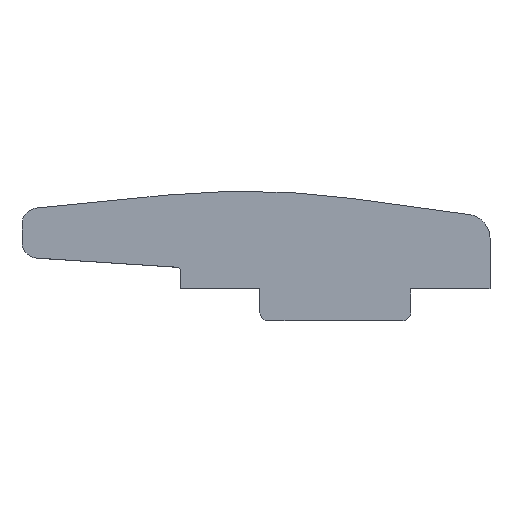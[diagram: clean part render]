
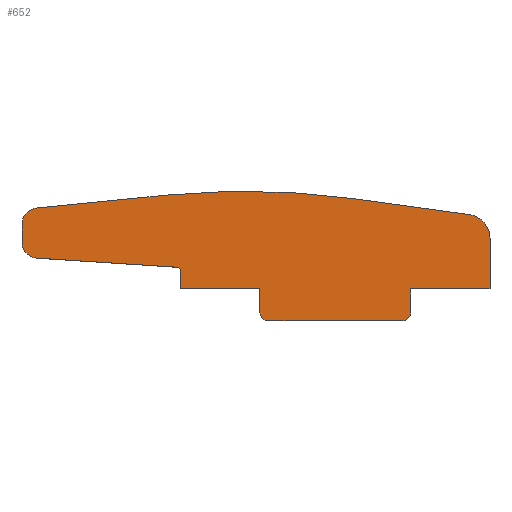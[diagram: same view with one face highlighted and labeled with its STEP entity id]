
A CAD part, top view. The second image highlights one B-rep face of the part: STEP entity #652.
In plain terms, the highlighted planar face has unit normal (0, 0, 1).
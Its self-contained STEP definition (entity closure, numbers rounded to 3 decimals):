
#164=CARTESIAN_POINT('',(-10.5,2.231,2.5));
#165=DIRECTION('',(0.,0.,-1.));
#166=DIRECTION('',(0.065,0.998,0.));
#167=AXIS2_PLACEMENT_3D('',#164,#165,#166);
#185=CARTESIAN_POINT('',(-28.,8.19,2.5));
#186=DIRECTION('',(0.,0.,1.));
#187=DIRECTION('',(-0.1,0.995,0.));
#188=AXIS2_PLACEMENT_3D('',#185,#186,#187);
#190=DIRECTION('',(-0.995,-0.1,0.));
#191=VECTOR('',#190,16.447);
#192=CARTESIAN_POINT('',(-11.833,11.817,2.5));
#193=LINE('',#192,#191);
#194=CARTESIAN_POINT('',(-1.883,-87.687,2.5));
#195=DIRECTION('',(0.,0.,1.));
#196=DIRECTION('',(0.137,0.991,0.));
#197=AXIS2_PLACEMENT_3D('',#194,#195,#196);
#199=DIRECTION('',(-0.991,0.137,0.));
#200=VECTOR('',#199,14.768);
#201=CARTESIAN_POINT('',(26.41,9.357,2.5));
#202=LINE('',#201,#200);
#203=CARTESIAN_POINT('',(26.,6.385,2.5));
#204=DIRECTION('',(0.,0.,1.));
#205=DIRECTION('',(1.,0.,0.));
#206=AXIS2_PLACEMENT_3D('',#203,#204,#205);
#208=DIRECTION('',(0.,1.,0.));
#209=VECTOR('',#208,6.385);
#210=CARTESIAN_POINT('',(29.,0.,2.5));
#211=LINE('',#210,#209);
#212=DIRECTION('',(1.,0.,0.));
#213=VECTOR('',#212,10.);
#214=CARTESIAN_POINT('',(19.,0.,2.5));
#215=LINE('',#214,#213);
#216=DIRECTION('',(0.,1.,0.));
#217=VECTOR('',#216,3.);
#218=CARTESIAN_POINT('',(19.,-3.,2.5));
#219=LINE('',#218,#217);
#220=CARTESIAN_POINT('',(18.,-3.,2.5));
#221=DIRECTION('',(0.,0.,1.));
#222=DIRECTION('',(0.,-1.,0.));
#223=AXIS2_PLACEMENT_3D('',#220,#221,#222);
#225=DIRECTION('',(1.,0.,0.));
#226=VECTOR('',#225,17.);
#227=CARTESIAN_POINT('',(1.,-4.,2.5));
#228=LINE('',#227,#226);
#229=CARTESIAN_POINT('',(1.,-3.,2.5));
#230=DIRECTION('',(0.,0.,1.));
#231=DIRECTION('',(-1.,0.,0.));
#232=AXIS2_PLACEMENT_3D('',#229,#230,#231);
#234=DIRECTION('',(0.,-1.,0.));
#235=VECTOR('',#234,3.);
#236=CARTESIAN_POINT('',(0.,0.,2.5));
#237=LINE('',#236,#235);
#238=DIRECTION('',(1.,0.,0.));
#239=VECTOR('',#238,10.);
#240=CARTESIAN_POINT('',(-10.,0.,2.5));
#241=LINE('',#240,#239);
#242=DIRECTION('',(0.,-1.,0.));
#243=VECTOR('',#242,2.231);
#244=CARTESIAN_POINT('',(-10.,2.231,2.5));
#245=LINE('',#244,#243);
#246=DIRECTION('',(0.998,-0.065,0.));
#247=VECTOR('',#246,17.699);
#248=CARTESIAN_POINT('',(-28.13,3.878,2.5));
#249=LINE('',#248,#247);
#250=CARTESIAN_POINT('',(-28.,5.874,2.5));
#251=DIRECTION('',(0.,0.,1.));
#252=DIRECTION('',(-1.,0.,0.));
#253=AXIS2_PLACEMENT_3D('',#250,#251,#252);
#255=DIRECTION('',(0.,-1.,0.));
#256=VECTOR('',#255,2.316);
#257=CARTESIAN_POINT('',(-30.,8.19,2.5));
#258=LINE('',#257,#256);
#267=CARTESIAN_POINT('',(19.,0.,2.5));
#268=CARTESIAN_POINT('',(29.,0.,2.5));
#269=VERTEX_POINT('',#267);
#270=VERTEX_POINT('',#268);
#271=CARTESIAN_POINT('',(-10.,0.,2.5));
#272=CARTESIAN_POINT('',(0.,0.,2.5));
#273=VERTEX_POINT('',#271);
#274=VERTEX_POINT('',#272);
#276=CARTESIAN_POINT('',(-10.,2.231,2.5));
#278=VERTEX_POINT('',#276);
#280=CARTESIAN_POINT('',(-10.468,2.73,2.5));
#282=VERTEX_POINT('',#280);
#287=CARTESIAN_POINT('',(-28.199,10.18,2.5));
#288=VERTEX_POINT('',#287);
#289=CARTESIAN_POINT('',(-30.,8.19,2.5));
#290=VERTEX_POINT('',#289);
#295=CARTESIAN_POINT('',(29.,6.385,2.5));
#296=VERTEX_POINT('',#295);
#297=CARTESIAN_POINT('',(26.41,9.357,2.5));
#298=VERTEX_POINT('',#297);
#303=CARTESIAN_POINT('',(0.,-3.,2.5));
#304=VERTEX_POINT('',#303);
#305=CARTESIAN_POINT('',(1.,-4.,2.5));
#306=VERTEX_POINT('',#305);
#311=CARTESIAN_POINT('',(18.,-4.,2.5));
#312=VERTEX_POINT('',#311);
#313=CARTESIAN_POINT('',(19.,-3.,2.5));
#314=VERTEX_POINT('',#313);
#319=CARTESIAN_POINT('',(-30.,5.874,2.5));
#320=VERTEX_POINT('',#319);
#321=CARTESIAN_POINT('',(-28.13,3.878,2.5));
#322=VERTEX_POINT('',#321);
#327=CARTESIAN_POINT('',(11.781,11.375,2.5));
#328=VERTEX_POINT('',#327);
#329=CARTESIAN_POINT('',(-11.833,11.817,2.5));
#330=VERTEX_POINT('',#329);
#627=CARTESIAN_POINT('',(0.,0.,2.5));
#628=DIRECTION('',(0.,0.,1.));
#629=DIRECTION('',(1.,0.,0.));
#630=AXIS2_PLACEMENT_3D('',#627,#628,#629);
#631=PLANE('',#630);
#632=ORIENTED_EDGE('',*,*,#383,.F.);
#633=ORIENTED_EDGE('',*,*,#399,.F.);
#634=ORIENTED_EDGE('',*,*,#412,.F.);
#635=ORIENTED_EDGE('',*,*,#425,.F.);
#636=ORIENTED_EDGE('',*,*,#440,.F.);
#637=ORIENTED_EDGE('',*,*,#455,.F.);
#638=ORIENTED_EDGE('',*,*,#468,.F.);
#639=ORIENTED_EDGE('',*,*,#481,.F.);
#640=ORIENTED_EDGE('',*,*,#496,.F.);
#641=ORIENTED_EDGE('',*,*,#509,.F.);
#642=ORIENTED_EDGE('',*,*,#524,.F.);
#643=ORIENTED_EDGE('',*,*,#539,.F.);
#644=ORIENTED_EDGE('',*,*,#552,.F.);
#645=ORIENTED_EDGE('',*,*,#565,.F.);
#646=ORIENTED_EDGE('',*,*,#581,.F.);
#647=ORIENTED_EDGE('',*,*,#593,.F.);
#648=ORIENTED_EDGE('',*,*,#608,.F.);
#649=ORIENTED_EDGE('',*,*,#620,.F.);
#650=EDGE_LOOP('',(#632,#633,#634,#635,#636,#637,#638,#639,#640,#641,#642,#643,
#644,#645,#646,#647,#648,#649));
#651=FACE_OUTER_BOUND('',#650,.F.);
#168=CIRCLE('',#167,0.5);
#189=CIRCLE('',#188,2.);
#198=CIRCLE('',#197,100.);
#207=CIRCLE('',#206,3.);
#224=CIRCLE('',#223,1.);
#233=CIRCLE('',#232,1.);
#254=CIRCLE('',#253,2.);
#383=EDGE_CURVE('',#288,#290,#189,.T.);
#399=EDGE_CURVE('',#330,#288,#193,.T.);
#412=EDGE_CURVE('',#328,#330,#198,.T.);
#425=EDGE_CURVE('',#298,#328,#202,.T.);
#440=EDGE_CURVE('',#296,#298,#207,.T.);
#455=EDGE_CURVE('',#270,#296,#211,.T.);
#468=EDGE_CURVE('',#269,#270,#215,.T.);
#481=EDGE_CURVE('',#314,#269,#219,.T.);
#496=EDGE_CURVE('',#312,#314,#224,.T.);
#509=EDGE_CURVE('',#306,#312,#228,.T.);
#524=EDGE_CURVE('',#304,#306,#233,.T.);
#539=EDGE_CURVE('',#274,#304,#237,.T.);
#552=EDGE_CURVE('',#273,#274,#241,.T.);
#565=EDGE_CURVE('',#278,#273,#245,.T.);
#581=EDGE_CURVE('',#282,#278,#168,.T.);
#593=EDGE_CURVE('',#322,#282,#249,.T.);
#608=EDGE_CURVE('',#320,#322,#254,.T.);
#620=EDGE_CURVE('',#290,#320,#258,.T.);
#652=ADVANCED_FACE('',(#651),#631,.T.);
